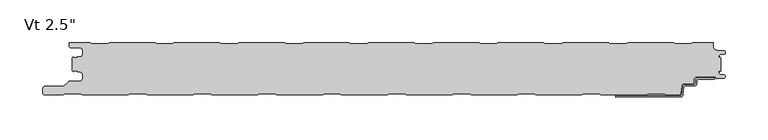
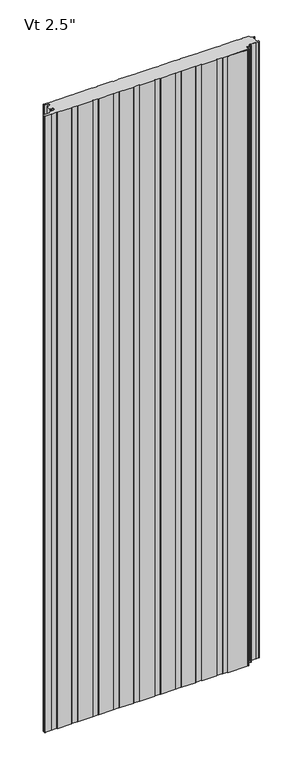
"""IFC4 building model written with IfcOpenShell, lengths in millimetres: plate geometry."""

from ifc_helpers import new_model, si_unit, point, frame, frame_2d, origin, origin_with_axes, place, context, project, spatial, polyline, circle_curve, trimmed, segment, composite_curve, outline, extrude, source, transform, mapped, element, save
from ifc_brep_helpers import plane_surface, cylinder_surface, revolved_surface, advanced_brep


def plate_d4053d72(model_context):
    return source(origin(), model_context, "Body", "SolidModel", [
        advanced_brep(
        [(354.8464083, -42.4008679, 0.0), (373.5916083, -42.4008679, 0.0), (373.5916083, -43.9248679, 0.0), (354.8464083, -43.9248679, 0.0), (353.3224083, -45.4488679, 0.0), (353.3224083, -48.5476679, 0.0), (349.8680083, -52.0020679, 0.0), (338.655451, -52.0020679, 0.0), (337.8963506, -52.6976552, 0.0), (336.701523, -62.2416507, 0.0), (333.6651216, -65.024, 0.0), (258.0978083, -65.0360323, 0.0), (258.0978083, -63.5, 0.0), (333.6651216, -63.5, 0.0), (335.1833223, -62.1088254, 0.0), (336.3781499, -52.5648299, 0.0), (338.655451, -50.4780679, 0.0), (349.8680083, -50.4780679, 0.0), (351.7984083, -48.5476679, 0.0), (351.7984083, -45.4488679, 0.0), (354.8464083, -42.4008679, 2400.0), (351.7984083, -45.4488679, 2400.0), (351.7984083, -48.5476679, 2400.0), (349.8680083, -50.4780679, 2400.0), (338.655451, -50.4780679, 2400.0), (336.3781499, -52.5648299, 2400.0), (335.1833223, -62.1088254, 2400.0), (333.6651216, -63.5, 2400.0), (258.0978083, -63.5, 2400.0), (258.0978083, -65.0360323, 2400.0), (333.6651216, -65.0360323, 2400.0), (336.701523, -62.2416507, 2400.0), (337.8963506, -52.6976552, 2400.0), (338.655451, -52.0020679, 2400.0), (349.8680083, -52.0020679, 2400.0), (353.3224083, -48.5476679, 2400.0), (353.3224083, -45.4488679, 2400.0), (354.8464083, -43.9248679, 2400.0), (373.5916083, -43.9248679, 2400.0), (373.5916083, -42.4008679, 2400.0)],
        [
            (0, 1),
            (1, 2),
            (2, 3),
            (3, 4, circle_curve(frame((354.8464083, -45.4488679, 0.0), z_axis=(0.0, 0.0, 1.0), x_axis=(0.0, 1.0, 0.0)), 1.524)),
            (4, 5),
            (5, 6, circle_curve(frame((349.8680083, -48.5476679, 0.0), z_axis=(0.0, 0.0, -1.0), x_axis=(0.0, 1.0, 0.0)), 3.4544)),
            (6, 7),
            (7, 8, circle_curve(frame((338.655451, -52.7640679, 0.0), z_axis=(0.0, 0.0, 1.0), x_axis=(0.0, 1.0, 0.0)), 0.762)),
            (8, 9),
            (9, 10, circle_curve(frame((333.6651216, -61.976, 0.0), z_axis=(0.0, 0.0, -1.0), x_axis=(0.0, 1.0, 0.0)), 3.048)),
            (10, 11),
            (11, 12),
            (12, 13),
            (13, 14, circle_curve(frame((333.6651216, -61.976, 0.0), z_axis=(0.0, 0.0, 1.0), x_axis=(0.0, 1.0, 0.0)), 1.524)),
            (14, 15),
            (15, 16, circle_curve(frame((338.655451, -52.7640679, 0.0), z_axis=(0.0, 0.0, -1.0), x_axis=(0.0, 1.0, 0.0)), 2.286)),
            (16, 17),
            (17, 18, circle_curve(frame((349.8680083, -48.5476679, 0.0), z_axis=(0.0, 0.0, 1.0), x_axis=(0.0, 1.0, 0.0)), 1.9304)),
            (18, 19),
            (19, 0, circle_curve(frame((354.8464083, -45.4488679, 0.0), z_axis=(0.0, 0.0, -1.0), x_axis=(0.0, 1.0, 0.0)), 3.048)),
            (20, 21, circle_curve(frame((354.8464083, -45.4488679, 2400.0), z_axis=(0.0, 0.0, 1.0), x_axis=(0.0, 1.0, 0.0)), 3.048)),
            (21, 22),
            (22, 23, circle_curve(frame((349.8680083, -48.5476679, 2400.0), z_axis=(0.0, 0.0, -1.0), x_axis=(0.0, 1.0, 0.0)), 1.9304)),
            (23, 24),
            (24, 25, circle_curve(frame((338.655451, -52.7640679, 2400.0), z_axis=(0.0, 0.0, 1.0), x_axis=(0.0, 1.0, 0.0)), 2.286)),
            (25, 26),
            (26, 27, circle_curve(frame((333.6651216, -61.976, 2400.0), z_axis=(0.0, 0.0, -1.0), x_axis=(0.0, 1.0, 0.0)), 1.524)),
            (27, 28),
            (28, 29),
            (29, 30),
            (30, 31, circle_curve(frame((333.6651216, -61.976, 2400.0), z_axis=(0.0, 0.0, 1.0), x_axis=(0.0, 1.0, 0.0)), 3.048)),
            (31, 32),
            (32, 33, circle_curve(frame((338.655451, -52.7640679, 2400.0), z_axis=(0.0, 0.0, -1.0), x_axis=(0.0, 1.0, 0.0)), 0.762)),
            (33, 34),
            (34, 35, circle_curve(frame((349.8680083, -48.5476679, 2400.0), z_axis=(0.0, 0.0, 1.0), x_axis=(0.0, 1.0, 0.0)), 3.4544)),
            (35, 36),
            (36, 37, circle_curve(frame((354.8464083, -45.4488679, 2400.0), z_axis=(0.0, 0.0, -1.0), x_axis=(0.0, 1.0, 0.0)), 1.524)),
            (37, 38),
            (38, 39),
            (39, 20),
            (2, 38),
            (37, 3),
            (15, 25),
            (24, 16),
            (7, 33),
            (32, 8),
            (5, 35),
            (34, 6),
            (1, 39),
            (36, 4),
            (9, 31),
            (30, 10),
            (13, 27),
            (26, 14),
            (0, 20),
            (12, 28),
            (29, 11),
            (23, 17),
            (18, 22),
            (21, 19),
        ],
        [
            plane_surface(frame((373.5916083, -63.5, 0.0), z_axis=(0.0, 0.0, -1.0), x_axis=(-1.0, 0.0, 0.0))),
            plane_surface(frame((373.5916083, -63.5, 2400.0), z_axis=(0.0, 0.0, 1.0), x_axis=(-1.0, 0.0, 0.0))),
            plane_surface(frame((354.8464083, -43.9248679, 0.0), z_axis=(0.0, -1.0, 0.0), x_axis=(0.0, 0.0, 1.0))),
            cylinder_surface(frame((338.655451, -52.7640679, 0.0), z_axis=(0.0, 0.0, -1.0), x_axis=(0.0, 1.0, 0.0)), 2.286),
            revolved_surface(polyline([(338.655451, -52.0020679, 2400.0), (338.655451, -52.0020679, 0.0)]), (338.655451, -52.7640679, 0.0), (0.0, 0.0, 1.0)),
            cylinder_surface(frame((349.8680083, -48.5476679, 0.0), z_axis=(0.0, 0.0, -1.0), x_axis=(0.0, 1.0, 0.0)), 3.4544),
            plane_surface(frame((373.5916083, -43.9248679, 0.0), z_axis=(1.0, 0.0, 0.0), x_axis=(0.0, 0.0, 1.0))),
            revolved_surface(polyline([(354.8464083, -43.9248679, 2400.0), (354.8464083, -43.9248679, 0.0)]), (354.8464083, -45.4488679, 0.0), (0.0, 0.0, 1.0)),
            cylinder_surface(frame((333.6651216, -61.976, 0.0), z_axis=(0.0, 0.0, -1.0), x_axis=(0.0, 1.0, 0.0)), 3.048),
            revolved_surface(polyline([(333.6651216, -60.452, 2400.0), (333.6651216, -60.452, 0.0)]), (333.6651216, -61.976, 0.0), (0.0, 0.0, 1.0)),
            plane_surface(frame((373.5916083, -42.4008679, 0.0), z_axis=(0.0, 1.0, 0.0), x_axis=(0.0, 0.0, 1.0))),
            plane_surface(frame((336.3781499, -52.5648299, 0.0), z_axis=(-0.9922544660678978, 0.12422187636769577, 0.0), x_axis=(0.0, 0.0, 1.0))),
            plane_surface(frame((333.6651216, -63.5, 0.0), z_axis=(0.0, 1.0, 0.0), x_axis=(0.0, 0.0, 1.0))),
            plane_surface(frame((336.701523, -62.2416507, 0.0), z_axis=(0.9922544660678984, -0.12422187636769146, 0.0), x_axis=(0.0, 0.0, 1.0))),
            plane_surface(frame((353.3224083, -48.5476679, 0.0), z_axis=(1.0, 0.0, 0.0), x_axis=(0.0, 0.0, 1.0))),
            plane_surface(frame((258.0978083, -65.0360323, 0.0), z_axis=(0.0, -1.0, 0.0), x_axis=(0.0, 0.0, 1.0))),
            plane_surface(frame((258.0978083, -63.5, 0.0), z_axis=(-1.0, 0.0, 0.0), x_axis=(0.0, 0.0, 1.0))),
            plane_surface(frame((349.8680083, -50.4780679, 0.0), z_axis=(0.0, 1.0, 0.0), x_axis=(0.0, 0.0, 1.0))),
            plane_surface(frame((351.7984083, -45.4488679, 0.0), z_axis=(-1.0, 0.0, 0.0), x_axis=(0.0, 0.0, 1.0))),
            plane_surface(frame((338.655451, -52.0020679, 0.0), z_axis=(0.0, -1.0, 0.0), x_axis=(0.0, 0.0, 1.0))),
            revolved_surface(polyline([(349.8680083, -46.6172679, 2400.0), (349.8680083, -46.6172679, 0.0)]), (349.8680083, -48.5476679, 0.0), (0.0, 0.0, 1.0)),
            cylinder_surface(frame((354.8464083, -45.4488679, 0.0), z_axis=(0.0, 0.0, -1.0), x_axis=(0.0, 1.0, 0.0)), 3.048),
        ],
        [
            (0, [[1, 2, 3, 4, 5, 6, 7, 8, 9, 10, 11, 12, 13, 14, 15, 16, 17, 18, 19, 20]]),
            (1, [[21, 22, 23, 24, 25, 26, 27, 28, 29, 30, 31, 32, 33, 34, 35, 36, 37, 38, 39, 40]]),
            (2, [[41, -38, 42, -3]]),
            (3, [[43, -25, 44, -16]]),
            (4, [[45, -33, 46, -8]]),
            (5, [[47, -35, 48, -6]]),
            (6, [[49, -39, -41, -2]]),
            (7, [[-42, -37, 50, -4]]),
            (8, [[51, -31, 52, -10]]),
            (9, [[53, -27, 54, -14]]),
            (10, [[55, -40, -49, -1]]),
            (11, [[-54, -26, -43, -15]]),
            (12, [[56, -28, -53, -13]]),
            (13, [[-46, -32, -51, -9]]),
            (14, [[-50, -36, -47, -5]]),
            (15, [[-52, -30, 57, -11]]),
            (16, [[-57, -29, -56, -12]]),
            (17, [[-44, -24, 58, -17]]),
            (18, [[59, -22, 60, -19]]),
            (19, [[-48, -34, -45, -7]]),
            (20, [[-58, -23, -59, -18]]),
            (21, [[-60, -21, -55, -20]]),
        ],
    ),
        extrude(outline(composite_curve([segment(polyline([(-379.9683001, -35.1760133), (-381.0, -34.1443135), (-381.0, -19.0328281), (-379.9686883, -18.0015165)]), True, "CONTINUOUS"), segment(trimmed(circle_curve(frame_2d((-378.9686911, -18.0015105)), 0.9999972), [point((-379.9686883, -18.0015165))], [point((-378.9686911, -19.0015077))], True, "CARTESIAN"), True, "CONTINUOUS"), segment(polyline([(-378.9686911, -19.0015077), (-374.9684875, -19.0015077), (-374.9684875, -18.0015132), (-372.2762777, -18.0015132)]), True, "CONTINUOUS"), segment(trimmed(circle_curve(frame_2d((-372.2762777, -14.7015175)), 3.2999957), [point((-372.2762777, -18.0015132))], [point((-368.976282, -14.7015175))], True, "CARTESIAN"), True, "CONTINUOUS"), segment(polyline([(-368.976282, -14.7015175), (-368.976282, -10.3015263)]), True, "CONTINUOUS"), segment(trimmed(circle_curve(frame_2d((-372.2762778, -10.3015263)), 3.2999959), [point((-368.976282, -10.3015263))], [point((-372.2762778, -7.0015304))], True, "CARTESIAN"), True, "CONTINUOUS"), segment(polyline([(-372.2762778, -7.0015304), (-382.6962564, -7.0015304)]), True, "CONTINUOUS"), segment(trimmed(circle_curve(frame_2d((-382.6962564, -5.2315362)), 1.7699942), [point((-382.6962564, -7.0015304))], [point((-384.4662506, -5.2315362))], False, "CARTESIAN"), True, "CONTINUOUS"), segment(polyline([(-384.4662506, -5.2315362), (-384.4662506, -0.9999889), (-359.965974, -0.9999889), (-358.5803313, -2.200228), (-339.205165, -2.200228), (-337.8195321, -0.9999973), (-283.7661167, -0.9999973), (-282.3804837, -2.200228), (-263.0053174, -2.200228), (-261.6196845, -0.9999973), (-207.5662691, -0.9999973), (-206.1806361, -2.200228), (-186.8054698, -2.200228), (-185.4198369, -0.9999973), (-131.3664215, -0.9999973), (-129.9807885, -2.200228), (-110.6056222, -2.200228), (-109.2199893, -0.9999973), (-55.1665739, -0.9999973), (-53.7809409, -2.200228), (-34.4057746, -2.200228), (-33.0201417, -0.9999973), (21.0332737, -0.9999973), (22.4189067, -2.200228), (41.794073, -2.200228), (43.1797059, -0.9999973), (97.2331213, -0.9999973), (98.6187543, -2.200228), (117.9939206, -2.200228), (119.3795535, -0.9999973), (173.4329689, -0.9999973), (174.8186019, -2.200228), (194.1937682, -2.200228), (195.5794011, -0.9999973), (249.6328165, -0.9999973), (251.0184495, -2.200228), (270.3936158, -2.200228), (271.7792487, -0.9999973), (325.8326641, -0.9999973), (327.2182971, -2.200228), (346.5934634, -2.200228), (347.9790963, -0.9999973), (372.4787013, -0.9999973), (372.4787013, -6.002598)]), True, "CONTINUOUS"), segment(trimmed(circle_curve(frame_2d((376.4939817, -5.9867311)), 4.0153117), [point((372.4787013, -6.002598))], [point((376.3016499, -9.9974338))], True, "CARTESIAN"), True, "CONTINUOUS"), segment(polyline([(376.3016499, -9.9974338), (384.7931719, -10.4046415)]), True, "CONTINUOUS"), segment(trimmed(circle_curve(frame_2d((384.6781032, -12.5552844)), 2.153719), [point((384.7931719, -10.4046415))], [point((384.7921924, -14.7059795))], False, "CARTESIAN"), True, "CONTINUOUS"), segment(polyline([(384.7921924, -14.7059795), (380.6513685, -14.9256402)]), True, "CONTINUOUS"), segment(trimmed(circle_curve(frame_2d((380.7186869, -16.6743434)), 1.7499985), [point((380.6513685, -14.9256402))], [point((378.9686884, -16.6743434))], True, "CARTESIAN"), True, "CONTINUOUS"), segment(polyline([(378.9686884, -16.6743434), (378.9686884, -19.0015261), (379.9686884, -19.0015261), (379.9686884, -17.5871382), (381.0, -18.6184498), (381.0, -34.5586918), (379.9686884, -35.5900034), (379.9686884, -34.0025034), (378.9686884, -34.0025034), (378.9686884, -36.78705)]), True, "CONTINUOUS"), segment(trimmed(circle_curve(frame_2d((380.8099653, -36.743489)), 1.8417922), [point((378.9686884, -36.78705))], [point((380.6977997, -38.5818625))], True, "CARTESIAN"), True, "CONTINUOUS"), segment(polyline([(380.6977997, -38.5818625), (384.7037148, -38.8262775)]), True, "CONTINUOUS"), segment(trimmed(circle_curve(frame_2d((384.6236622, -40.9266264)), 2.1018739), [point((384.7037148, -38.8262775))], [point((384.706811, -43.026855))], False, "CARTESIAN"), True, "CONTINUOUS"), segment(polyline([(384.706811, -43.026855), (375.7334028, -43.3821154), (374.5895515, -41.4012676), (353.4091924, -41.4012676)]), True, "CONTINUOUS"), segment(trimmed(circle_curve(frame_2d((353.4091924, -45.4007205)), 3.9994529), [point((353.4091924, -41.4012676))], [point((349.4097394, -45.4007205))], True, "CARTESIAN"), True, "CONTINUOUS"), segment(polyline([(349.4097394, -45.4007205), (349.4097394, -48.5443759)]), True, "CONTINUOUS"), segment(trimmed(circle_curve(frame_2d((348.4583308, -48.5443759)), 0.9514087), [point((349.4097394, -48.5443759))], [point((348.4583308, -49.4957846))], False, "CARTESIAN"), True, "CONTINUOUS"), segment(polyline([(348.4583308, -49.4957846), (338.3653654, -49.4957846)]), True, "CONTINUOUS"), segment(trimmed(circle_curve(frame_2d((338.2396267, -52.5231704)), 3.0299959), [point((338.3653654, -49.4957846))], [point((335.221161, -52.2590875))], True, "CARTESIAN"), True, "CONTINUOUS"), segment(polyline([(335.221161, -52.2590875), (334.4671075, -60.7178001)]), True, "CONTINUOUS"), segment(trimmed(circle_curve(frame_2d((332.5156233, -60.5461167)), 1.9590216), [point((334.4671075, -60.7178001))], [point((332.5156233, -62.5051384))], False, "CARTESIAN"), True, "CONTINUOUS"), segment(polyline([(332.5156233, -62.5051384), (316.4457079, -62.5051384), (315.2403361, -61.2997666), (295.5209236, -61.2997666), (294.3206929, -62.4999973), (240.2405611, -62.4999973), (239.0403304, -61.2997666), (219.3209179, -61.2997666), (218.1206872, -62.4999973), (164.0405554, -62.4999973), (162.8403247, -61.2997666), (143.1209122, -61.2997666), (141.9206815, -62.4999973), (87.8405497, -62.4999973), (86.640319, -61.2997666), (66.9209065, -61.2997666), (65.7206758, -62.4999973), (11.640544, -62.4999973), (10.4403133, -61.2997666), (-9.2790992, -61.2997666), (-10.4793299, -62.4999973), (-64.5594617, -62.4999973), (-65.7596924, -61.2997666), (-85.4791049, -61.2997666), (-86.6793356, -62.4999973), (-140.7594674, -62.4999973), (-141.9596981, -61.2997666), (-161.6791106, -61.2997666), (-162.8793413, -62.4999973), (-216.9594731, -62.4999973), (-218.1597038, -61.2997666), (-237.8791163, -61.2997666), (-239.079347, -62.4999973), (-293.1594787, -62.4999973), (-294.3597095, -61.2997666), (-314.079122, -61.2997666), (-315.2793527, -62.4999973), (-369.3594844, -62.4999973), (-370.5597151, -61.2997666), (-390.2791277, -61.2997666), (-391.4790962, -62.4997351), (-413.4521176, -62.4997351)]), True, "CONTINUOUS"), segment(trimmed(circle_curve(frame_2d((-413.4521176, -59.9294958)), 2.5702393), [point((-413.4521176, -62.4997351))], [point((-416.0125699, -59.7054102))], False, "CARTESIAN"), True, "CONTINUOUS"), segment(polyline([(-416.0125699, -59.7054102), (-415.5765709, -54.7235893)]), True, "CONTINUOUS"), segment(trimmed(circle_curve(frame_2d((-412.9198392, -55.2049799)), 2.6999926), [point((-415.5765709, -54.7235893))], [point((-412.9198392, -52.5049873))], False, "CARTESIAN"), True, "CONTINUOUS"), segment(polyline([(-412.9198392, -52.5049873), (-390.8247096, -52.5049873), (-385.3226385, -47.0029162)]), True, "CONTINUOUS"), segment(trimmed(circle_curve(frame_2d((-384.1205608, -48.2049939)), 1.6999946), [point((-385.3226385, -47.0029162))], [point((-384.1205608, -46.5049993))], False, "CARTESIAN"), True, "CONTINUOUS"), segment(polyline([(-384.1205608, -46.5049993), (-372.3096717, -46.5049993)]), True, "CONTINUOUS"), segment(trimmed(circle_curve(frame_2d((-372.3096717, -43.155004)), 3.3499953), [point((-372.3096717, -46.5049993))], [point((-368.9596764, -43.155004))], True, "CARTESIAN"), True, "CONTINUOUS"), segment(polyline([(-368.9596764, -43.155004), (-368.9596764, -38.7550128)]), True, "CONTINUOUS"), segment(trimmed(circle_curve(frame_2d((-372.3096717, -38.7550128)), 3.3499953), [point((-368.9596764, -38.7550128))], [point((-372.3096717, -35.4050175))], True, "CARTESIAN"), True, "CONTINUOUS"), segment(polyline([(-372.3096717, -35.4050175), (-375.0087827, -35.4050175), (-375.0087827, -34.0065386), (-378.7671761, -34.0065386)]), True, "CONTINUOUS"), segment(trimmed(circle_curve(frame_2d((-378.7686908, -35.2065352)), 1.1999976), [point((-378.7671761, -34.0065386))], [point((-379.9683001, -35.1760133))], True, "CARTESIAN"), True, "CONTINUOUS")], self_intersect=False)), origin_with_axes(), (0.0, 0.0, 1.0), 2400.0),
    ])


if __name__ == "__main__":
    model = new_model("IFC4")
    model_context = context("Model", 3, world=origin())
    ifc_project = project(units=[si_unit("LENGTHUNIT", "METRE", prefix="MILLI")], contexts=[model_context])
    site = spatial("IfcSite", under=ifc_project)
    building = spatial("IfcBuilding", under=site)
    placement = place(None, origin())
    plate_shape = plate_d4053d72(model_context)
    element("IfcPlate", 1, ObjectType="KIP-30-Karrier-KP-R19-CP-Vt-SL_SL : Vt 2.5\"", at=placement, inside=building, context=model_context, shape_type="MappedRepresentation", body=[
        mapped(plate_shape, transform((0.0, 0.0, 0.0), x_axis=(1.0, 0.0, 0.0), y_axis=(0.0, 1.0, 0.0), z_axis=(0.0, 0.0, 1.0))),
    ])
    save(model, "model.ifc")
